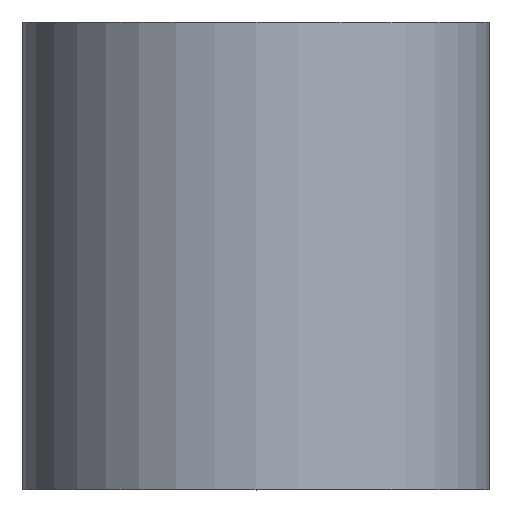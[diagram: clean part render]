
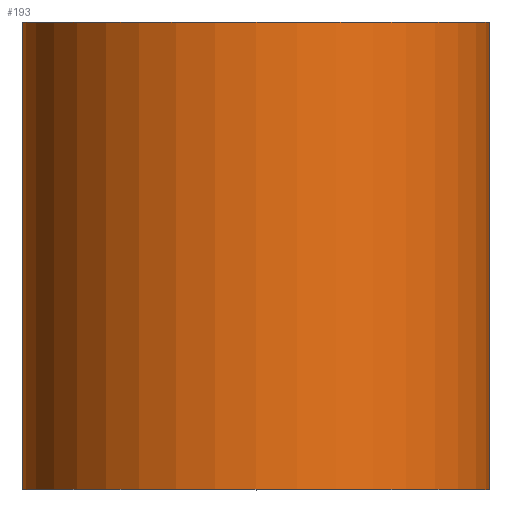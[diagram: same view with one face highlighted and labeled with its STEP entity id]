
A CAD part, top view. The second image highlights one B-rep face of the part: STEP entity #193.
In plain terms, the highlighted cylindrical face has radius 4 mm (diameter 8 mm), a partial arc.
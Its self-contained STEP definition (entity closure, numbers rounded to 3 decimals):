
#25 = EDGE_CURVE ( 'NONE', #73, #132, #48, .T. ) ;
#27 = CARTESIAN_POINT ( 'NONE',  ( 4., 8., 0. ) ) ;
#29 = CARTESIAN_POINT ( 'NONE',  ( -4., 8., 0. ) ) ;
#34 = AXIS2_PLACEMENT_3D ( 'NONE', #47, #119, #71 ) ;
#44 = LINE ( 'NONE', #99, #268 ) ;
#47 = CARTESIAN_POINT ( 'NONE',  ( 0., 0., 0. ) ) ;
#48 = LINE ( 'NONE', #300, #229 ) ;
#54 = CIRCLE ( 'NONE', #34, 4. ) ;
#57 = AXIS2_PLACEMENT_3D ( 'NONE', #218, #98, #162 ) ;
#63 = VERTEX_POINT ( 'NONE', #29 ) ;
#71 = DIRECTION ( 'NONE',  ( -1., 0., 0. ) ) ;
#73 = VERTEX_POINT ( 'NONE', #280 ) ;
#98 = DIRECTION ( 'NONE',  ( 0., 1., 0. ) ) ;
#99 = CARTESIAN_POINT ( 'NONE',  ( -4., 0., 0. ) ) ;
#102 = DIRECTION ( 'NONE',  ( 0., 1., 0. ) ) ;
#103 = FACE_OUTER_BOUND ( 'NONE', #137, .T. ) ;
#111 = CYLINDRICAL_SURFACE ( 'NONE', #57, 4. ) ;
#119 = DIRECTION ( 'NONE',  ( 0., 1., 0. ) ) ;
#132 = VERTEX_POINT ( 'NONE', #27 ) ;
#137 = EDGE_LOOP ( 'NONE', ( #173, #293, #262, #216 ) ) ;
#138 = DIRECTION ( 'NONE',  ( 0., 1., 0. ) ) ;
#154 = VERTEX_POINT ( 'NONE', #295 ) ;
#160 = DIRECTION ( 'NONE',  ( 0., 1., 0. ) ) ;
#162 = DIRECTION ( 'NONE',  ( -1., 0., 0. ) ) ;
#163 = EDGE_CURVE ( 'NONE', #154, #73, #54, .T. ) ;
#164 = CIRCLE ( 'NONE', #208, 4. ) ;
#173 = ORIENTED_EDGE ( 'NONE', *, *, #163, .T. ) ;
#193 = ADVANCED_FACE ( 'NONE', ( #103 ), #111, .T. ) ;
#207 = EDGE_CURVE ( 'NONE', #63, #132, #164, .T. ) ;
#208 = AXIS2_PLACEMENT_3D ( 'NONE', #226, #102, #209 ) ;
#209 = DIRECTION ( 'NONE',  ( -1., 0., 0. ) ) ;
#214 = EDGE_CURVE ( 'NONE', #154, #63, #44, .T. ) ;
#216 = ORIENTED_EDGE ( 'NONE', *, *, #214, .F. ) ;
#218 = CARTESIAN_POINT ( 'NONE',  ( 0., 0., 0. ) ) ;
#226 = CARTESIAN_POINT ( 'NONE',  ( 0., 8., 0. ) ) ;
#229 = VECTOR ( 'NONE', #138, 1000. ) ;
#262 = ORIENTED_EDGE ( 'NONE', *, *, #207, .F. ) ;
#268 = VECTOR ( 'NONE', #160, 1000. ) ;
#280 = CARTESIAN_POINT ( 'NONE',  ( 4., 0., 0. ) ) ;
#293 = ORIENTED_EDGE ( 'NONE', *, *, #25, .T. ) ;
#295 = CARTESIAN_POINT ( 'NONE',  ( -4., 0., 0. ) ) ;
#300 = CARTESIAN_POINT ( 'NONE',  ( 4., 0., 0. ) ) ;
